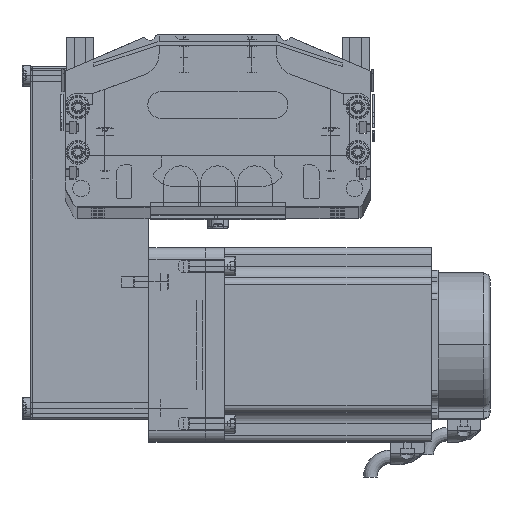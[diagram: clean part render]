
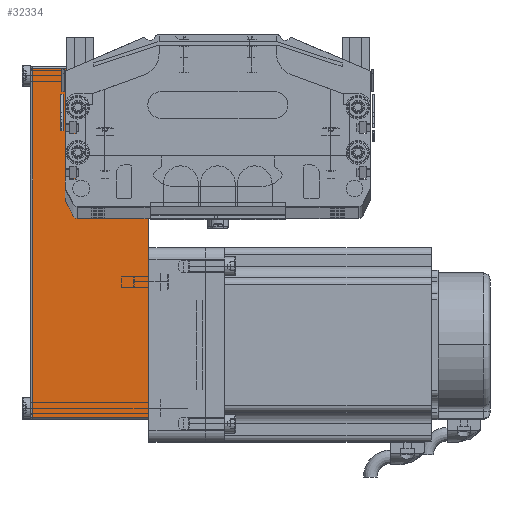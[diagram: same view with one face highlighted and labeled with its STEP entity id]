
A CAD part, top view. The second image highlights one B-rep face of the part: STEP entity #32334.
In plain terms, the highlighted planar face has unit normal (0, 0, 1) as drawn and (0, -1, 0) by its records, which use the part's own axes.
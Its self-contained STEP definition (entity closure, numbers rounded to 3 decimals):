
#13759 = VERTEX_POINT ( 'NONE', #47981 ) ;
#13783 = VERTEX_POINT ( 'NONE', #48033 ) ;
#13866 = EDGE_CURVE ( 'NONE', #13783, #13759, #45498, .T. ) ;
#32334 = ADVANCED_FACE ( 'NONE', ( #49643 ), #49669, .F. ) ;
#32443 = EDGE_CURVE ( 'NONE', #32448, #13783, #50834, .T. ) ;
#32445 = EDGE_CURVE ( 'NONE', #32505, #32448, #50597, .T. ) ;
#32448 = VERTEX_POINT ( 'NONE', #50676 ) ;
#32453 = ORIENTED_EDGE ( 'NONE', *, *, #32445, .T. ) ;
#32503 = ORIENTED_EDGE ( 'NONE', *, *, #13866, .T. ) ;
#32505 = VERTEX_POINT ( 'NONE', #51110 ) ;
#32510 = ORIENTED_EDGE ( 'NONE', *, *, #32634, .T. ) ;
#32542 = ORIENTED_EDGE ( 'NONE', *, *, #32443, .T. ) ;
#32634 = EDGE_CURVE ( 'NONE', #13759, #32505, #59154, .T. ) ;
#32636 = EDGE_LOOP ( 'NONE', ( #32503, #32510, #32453, #32542 ) ) ;
#45483 = DIRECTION ( 'NONE',  ( 1., 0., 0. ) ) ;
#45486 = CARTESIAN_POINT ( 'NONE',  ( 32., -40., 0. ) ) ;
#45498 = LINE ( 'NONE', #45486, #45714 ) ;
#45714 = VECTOR ( 'NONE', #45483, 1000. ) ;
#47981 = CARTESIAN_POINT ( 'NONE',  ( 31., -40., 0. ) ) ;
#48033 = CARTESIAN_POINT ( 'NONE',  ( -123.2, -40., 0. ) ) ;
#49643 = FACE_OUTER_BOUND ( 'NONE', #32636, .T. ) ;
#49669 = PLANE ( 'NONE',  #49726 ) ;
#49709 = DIRECTION ( 'NONE',  ( -1., 0., 0. ) ) ;
#49710 = DIRECTION ( 'NONE',  ( 0., 1., 0. ) ) ;
#49711 = CARTESIAN_POINT ( 'NONE',  ( 32., -40., 52.5 ) ) ;
#49726 = AXIS2_PLACEMENT_3D ( 'NONE', #49711, #49710, #49709 ) ;
#50587 = DIRECTION ( 'NONE',  ( 0., 0., -1. ) ) ;
#50588 = CARTESIAN_POINT ( 'NONE',  ( -123.2, -40., 52.5 ) ) ;
#50597 = LINE ( 'NONE', #50725, #50724 ) ;
#50676 = CARTESIAN_POINT ( 'NONE',  ( -123.2, -40., 51.5 ) ) ;
#50723 = DIRECTION ( 'NONE',  ( -1., 0., 0. ) ) ;
#50724 = VECTOR ( 'NONE', #50723, 1000. ) ;
#50725 = CARTESIAN_POINT ( 'NONE',  ( 32., -40., 51.5 ) ) ;
#50728 = VECTOR ( 'NONE', #50587, 1000. ) ;
#50834 = LINE ( 'NONE', #50588, #50728 ) ;
#51110 = CARTESIAN_POINT ( 'NONE',  ( 31., -40., 51.5 ) ) ;
#59133 = DIRECTION ( 'NONE',  ( 0., 0., 1. ) ) ;
#59134 = CARTESIAN_POINT ( 'NONE',  ( 31., -40., 52.5 ) ) ;
#59140 = VECTOR ( 'NONE', #59133, 1000. ) ;
#59154 = LINE ( 'NONE', #59134, #59140 ) ;
